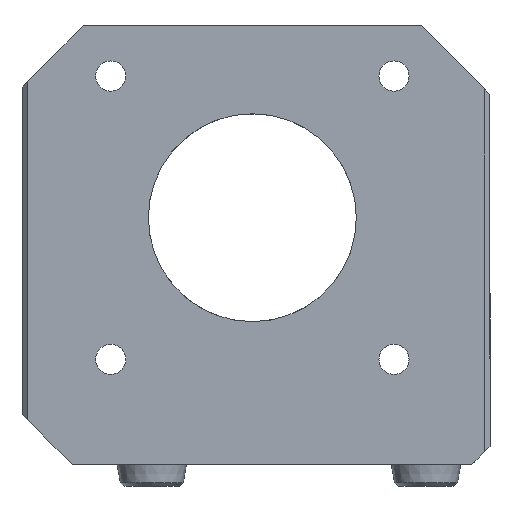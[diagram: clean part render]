
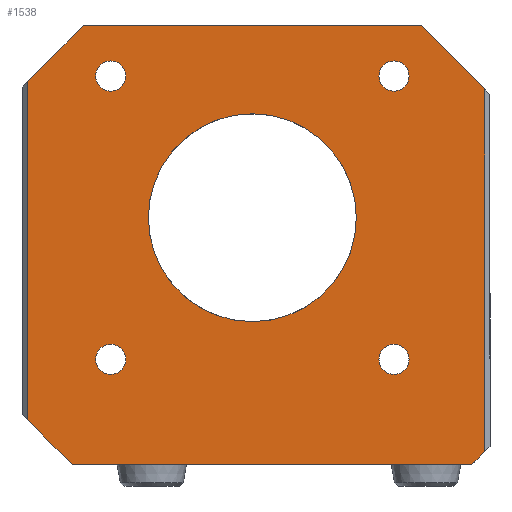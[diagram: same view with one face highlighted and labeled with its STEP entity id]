
A CAD part, front view. The second image highlights one B-rep face of the part: STEP entity #1538.
In plain terms, the highlighted planar face has unit normal (0, -1, 0).
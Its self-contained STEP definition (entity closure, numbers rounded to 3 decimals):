
#39=FACE_BOUND('',#239,.T.);
#40=FACE_BOUND('',#240,.T.);
#41=FACE_BOUND('',#241,.T.);
#42=FACE_BOUND('',#242,.T.);
#43=FACE_BOUND('',#243,.T.);
#60=PLANE('',#1663);
#144=FACE_OUTER_BOUND('',#238,.T.);
#238=EDGE_LOOP('',(#1146,#1147,#1148,#1149,#1150,#1151,#1152,#1153));
#239=EDGE_LOOP('',(#1154));
#240=EDGE_LOOP('',(#1155));
#241=EDGE_LOOP('',(#1156));
#242=EDGE_LOOP('',(#1157));
#243=EDGE_LOOP('',(#1158));
#335=LINE('',#2318,#474);
#354=LINE('',#2466,#493);
#362=LINE('',#2485,#501);
#369=LINE('',#2503,#508);
#370=LINE('',#2505,#509);
#371=LINE('',#2507,#510);
#372=LINE('',#2509,#511);
#373=LINE('',#2510,#512);
#474=VECTOR('',#1826,10.);
#493=VECTOR('',#1879,10.);
#501=VECTOR('',#1895,10.);
#508=VECTOR('',#1910,10.);
#509=VECTOR('',#1911,10.);
#510=VECTOR('',#1912,10.);
#511=VECTOR('',#1913,10.);
#512=VECTOR('',#1914,10.);
#628=CIRCLE('',#1664,1.65);
#629=CIRCLE('',#1665,1.65);
#630=CIRCLE('',#1666,1.65);
#631=CIRCLE('',#1667,11.375);
#632=CIRCLE('',#1668,1.65);
#685=VERTEX_POINT('',#2302);
#692=VERTEX_POINT('',#2316);
#718=VERTEX_POINT('',#2458);
#728=VERTEX_POINT('',#2484);
#735=VERTEX_POINT('',#2502);
#736=VERTEX_POINT('',#2504);
#737=VERTEX_POINT('',#2506);
#738=VERTEX_POINT('',#2508);
#739=VERTEX_POINT('',#2511);
#740=VERTEX_POINT('',#2513);
#741=VERTEX_POINT('',#2515);
#742=VERTEX_POINT('',#2517);
#743=VERTEX_POINT('',#2519);
#837=EDGE_CURVE('',#692,#685,#335,.T.);
#873=EDGE_CURVE('',#685,#718,#354,.T.);
#882=EDGE_CURVE('',#728,#692,#362,.T.);
#891=EDGE_CURVE('',#735,#728,#369,.T.);
#892=EDGE_CURVE('',#735,#736,#370,.T.);
#893=EDGE_CURVE('',#736,#737,#371,.T.);
#894=EDGE_CURVE('',#737,#738,#372,.T.);
#895=EDGE_CURVE('',#718,#738,#373,.T.);
#896=EDGE_CURVE('',#739,#739,#628,.T.);
#897=EDGE_CURVE('',#740,#740,#629,.T.);
#898=EDGE_CURVE('',#741,#741,#630,.T.);
#899=EDGE_CURVE('',#742,#742,#631,.T.);
#900=EDGE_CURVE('',#743,#743,#632,.T.);
#1146=ORIENTED_EDGE('',*,*,#873,.F.);
#1147=ORIENTED_EDGE('',*,*,#837,.F.);
#1148=ORIENTED_EDGE('',*,*,#882,.F.);
#1149=ORIENTED_EDGE('',*,*,#891,.F.);
#1150=ORIENTED_EDGE('',*,*,#892,.T.);
#1151=ORIENTED_EDGE('',*,*,#893,.T.);
#1152=ORIENTED_EDGE('',*,*,#894,.T.);
#1153=ORIENTED_EDGE('',*,*,#895,.F.);
#1154=ORIENTED_EDGE('',*,*,#896,.T.);
#1155=ORIENTED_EDGE('',*,*,#897,.T.);
#1156=ORIENTED_EDGE('',*,*,#898,.T.);
#1157=ORIENTED_EDGE('',*,*,#899,.T.);
#1158=ORIENTED_EDGE('',*,*,#900,.T.);
#1538=ADVANCED_FACE('',(#144,#39,#40,#41,#42,#43),#60,.T.);
#1663=AXIS2_PLACEMENT_3D('',#2501,#1908,#1909);
#1664=AXIS2_PLACEMENT_3D('',#2512,#1915,#1916);
#1665=AXIS2_PLACEMENT_3D('',#2514,#1917,#1918);
#1666=AXIS2_PLACEMENT_3D('',#2516,#1919,#1920);
#1667=AXIS2_PLACEMENT_3D('',#2518,#1921,#1922);
#1668=AXIS2_PLACEMENT_3D('',#2520,#1923,#1924);
#1826=DIRECTION('',(-1.,0.,0.));
#1879=DIRECTION('',(-0.707,0.,0.707));
#1895=DIRECTION('',(-0.707,0.,-0.707));
#1908=DIRECTION('center_axis',(0.,-1.,0.));
#1909=DIRECTION('ref_axis',(1.,0.,0.));
#1910=DIRECTION('',(0.,0.,-1.));
#1911=DIRECTION('',(-0.707,0.,0.707));
#1912=DIRECTION('',(-1.,0.,0.));
#1913=DIRECTION('',(-0.707,0.,-0.707));
#1914=DIRECTION('',(0.,0.,1.));
#1915=DIRECTION('center_axis',(0.,1.,0.));
#1916=DIRECTION('ref_axis',(1.,0.,0.));
#1917=DIRECTION('center_axis',(0.,1.,0.));
#1918=DIRECTION('ref_axis',(1.,0.,0.));
#1919=DIRECTION('center_axis',(0.,1.,0.));
#1920=DIRECTION('ref_axis',(1.,0.,0.));
#1921=DIRECTION('center_axis',(0.,1.,0.));
#1922=DIRECTION('ref_axis',(1.,0.,0.));
#1923=DIRECTION('center_axis',(0.,1.,0.));
#1924=DIRECTION('ref_axis',(1.,0.,0.));
#2302=CARTESIAN_POINT('',(-43.7,-40.05,42.875));
#2316=CARTESIAN_POINT('',(0.,-40.05,42.875));
#2318=CARTESIAN_POINT('',(-30.,-40.05,42.875));
#2458=CARTESIAN_POINT('',(-48.6,-40.05,47.775));
#2466=CARTESIAN_POINT('',(-45.525,-40.05,44.7));
#2484=CARTESIAN_POINT('',(1.4,-40.05,44.275));
#2485=CARTESIAN_POINT('',(1.125,-40.05,44.));
#2501=CARTESIAN_POINT('Origin',(-21.5,-40.05,66.875));
#2502=CARTESIAN_POINT('',(1.4,-40.05,83.975));
#2503=CARTESIAN_POINT('',(1.4,-40.05,54.875));
#2504=CARTESIAN_POINT('',(-5.5,-40.05,90.875));
#2505=CARTESIAN_POINT('',(2.,-40.05,83.375));
#2506=CARTESIAN_POINT('',(-42.5,-40.05,90.875));
#2507=CARTESIAN_POINT('',(-5.5,-40.05,90.875));
#2508=CARTESIAN_POINT('',(-48.6,-40.05,84.775));
#2509=CARTESIAN_POINT('',(-42.5,-40.05,90.875));
#2510=CARTESIAN_POINT('',(-48.6,-40.05,62.375));
#2511=CARTESIAN_POINT('',(-41.15,-40.05,85.375));
#2512=CARTESIAN_POINT('Origin',(-39.5,-40.05,85.375));
#2513=CARTESIAN_POINT('',(-41.15,-40.05,54.375));
#2514=CARTESIAN_POINT('Origin',(-39.5,-40.05,54.375));
#2515=CARTESIAN_POINT('',(-10.15,-40.05,54.375));
#2516=CARTESIAN_POINT('Origin',(-8.5,-40.05,54.375));
#2517=CARTESIAN_POINT('',(-35.375,-40.05,69.875));
#2518=CARTESIAN_POINT('Origin',(-24.,-40.05,69.875));
#2519=CARTESIAN_POINT('',(-10.15,-40.05,85.375));
#2520=CARTESIAN_POINT('Origin',(-8.5,-40.05,85.375));
